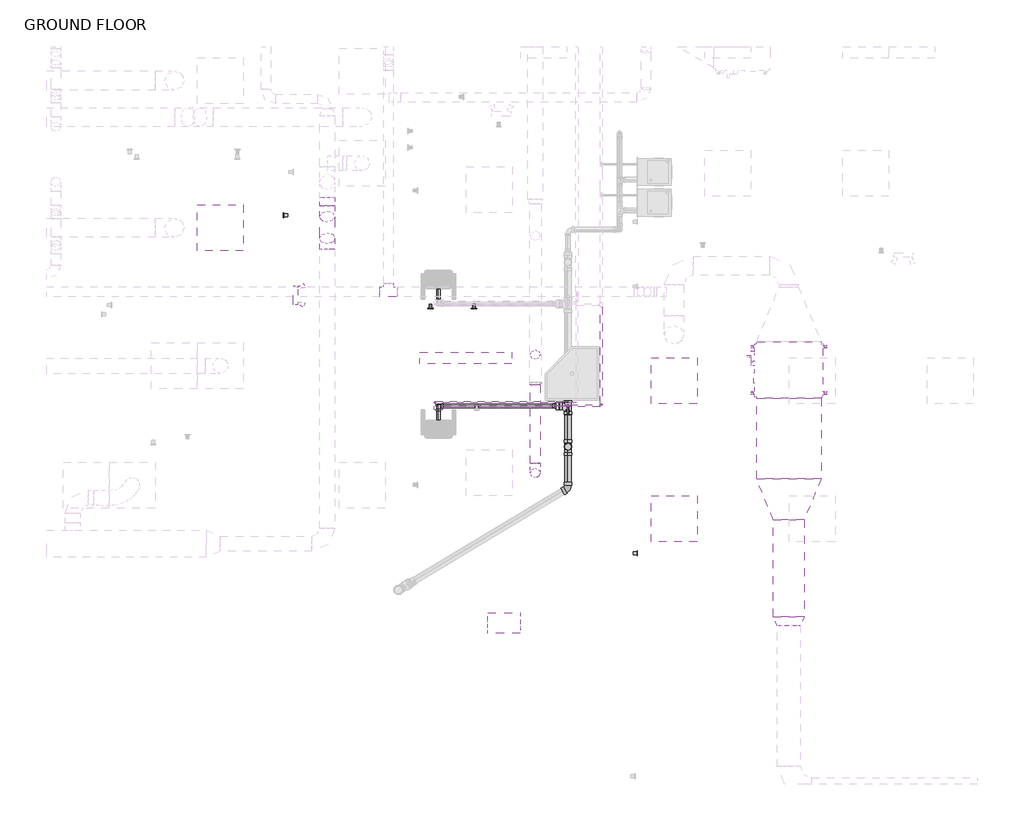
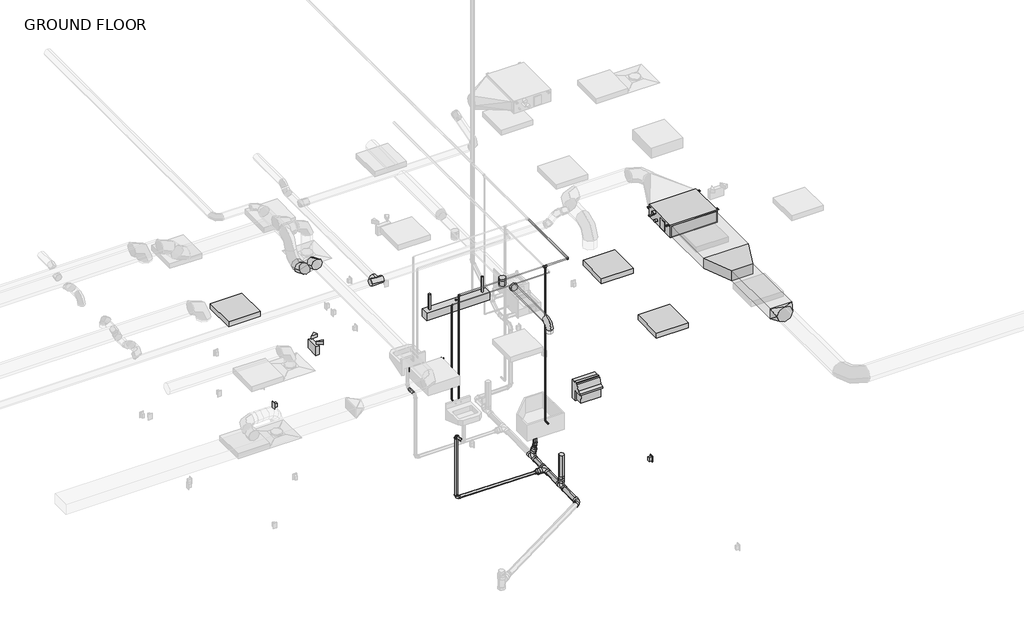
# One storey, part 7 of 22: 21 pipe segments, 19 pipe fittings, 8 duct fittings, 7 duct segments, 6 light fixtures, 4 proxies, 1 switching device.
"""IFC4 building model written with IfcOpenShell, lengths in millimetres."""

from ifc_helpers import new_model, si_unit, point, frame, frame_2d, origin, place, context, project, spatial, polyline, circle_curve, trimmed, segment, composite_curve, outline, extrude, transform, mapped, element, save
from components import mechanical_equipment_7e022f85, duplex_receptacle_countertop_10251bba, rectangular_transition_angle_45_degree_497df859, rectangular_to_round_transition_angle_45_degree_a6b6a24c, round_elbow_1_d_c80420c1, round_elbow_1_d_ab3aa7ba, round_takeoff_standard_0d53327c, round_tee_standard_ef45fe1c, round_transition_angle_45_degree_f2e0231c, emergency_wall_light_120v_37438f40, suspended_fluorescent_strip_non_hosted_strip_light_1x4_120v_4ea4ccb3, troffer_corner_insert_2x2_3lamp_e67c7f8f, wall_pack_light_exterior_120v_ab60a804, bend_pvc_sch_40_dwv_standard_56513ac6, bend_pvc_sch_40_dwv_standard_370f4fae, bend_pvc_sch_40_dwv_standard_7bd6d8ba, bend_pvc_sch_40_dwv_standard_0d44c437, elbow_generic_standard_c06ac706, elbow_generic_standard_738589b0, elbow_generic_standard_a088f956, reducer_pvc_sch_40_dwv_standard_e0255712, reducer_pvc_sch_40_dwv_standard_bed7e4d3, reducer_pvc_sch_40_dwv_standard_5cd4e870, tee_generic_standard_d345b28c, tee_sanitary_pvc_sch_40_dwv_standard_1c89b272, tee_sanitary_pvc_sch_40_dwv_standard_95650df0, tee_sanitary_pvc_sch_40_dwv_standard_33d2d55c, transition_generic_standard_55f5cc9a, transition_generic_standard_1e832544

model = new_model("IFC4")

# Units and contexts
model_context = context("Model", 3, world=origin())
ifc_project = project(units=[si_unit("LENGTHUNIT", "METRE", prefix="MILLI")], contexts=[model_context])

# Site, building, storey
site = spatial("IfcSite", under=ifc_project)
building = spatial("IfcBuilding", under=site)
storey = spatial("IfcBuildingStorey", under=building, Name="GROUND FLOOR", Elevation=30480.0)

# Proxies
placement = place(None, origin())
mechanical_equipment_shape = mechanical_equipment_7e022f85(model_context)
element("IfcBuildingElementProxy", 1, Name="PEFY-P-NMAU-E_Medium_Static_Ducted : PEFY-P18NMAU-E", ObjectType="PEFY-P-NMAU-E_Medium_Static_Ducted : PEFY-P18NMAU-E", at=placement, inside=storey, context=model_context, shape_type="MappedRepresentation", body=[
    mapped(mechanical_equipment_shape, transform((15856.6983533, -4228.239426, 33604.2), x_axis=(-1.0, 0.0, 0.0), y_axis=(0.0, -1.0, 0.0), z_axis=(0.0, 0.0, 1.0))),
])
duplex_receptacle_countertop_shape = duplex_receptacle_countertop_10251bba(model_context)
element("IfcBuildingElementProxy", 2, Name="Duplex Receptacle : GFCI", ObjectType="Duplex Receptacle : GFCI", at=placement, inside=storey, context=model_context, shape_type="MappedRepresentation", body=[
    mapped(duplex_receptacle_countertop_shape, transform((11695.4238413, -3466.1054995, 31699.2), x_axis=(1.0, 0.0, 0.0), y_axis=(0.0, 0.0, 1.0), z_axis=(0.0, -1.0, 0.0))),
])
element("IfcBuildingElementProxy", 3, Name="Duplex Receptacle : Standard", ObjectType="Duplex Receptacle : Standard", at=placement, inside=storey, context=model_context, shape_type="MappedRepresentation", body=[
    mapped(duplex_receptacle_countertop_shape, transform((9173.5295393, -2231.5768366, 30937.2), x_axis=(0.0, -1.0, 0.0), y_axis=(0.0, 0.0, 1.0), z_axis=(-1.0, 0.0, 0.0))),
])
element("IfcBuildingElementProxy", 4, Name="Duplex Receptacle : Standard", ObjectType="Duplex Receptacle : Standard", at=placement, inside=storey, context=model_context, shape_type="MappedRepresentation", body=[
    mapped(duplex_receptacle_countertop_shape, transform((13856.6545393, -6710.7715703, 30937.2), x_axis=(0.0, 1.0, 0.0), y_axis=(0.0, 0.0, 1.0), z_axis=(1.0, 0.0, 0.0))),
])

# Duct fittings
rectangular_transition_angle_45_degree_shape = rectangular_transition_angle_45_degree_497df859(model_context)
element("IfcDuctFitting", 5, ObjectType="Rectangular Transition - Angle : 45 Degree", at=placement, inside=storey, context=model_context, shape_type="MappedRepresentation", body=[
    mapped(rectangular_transition_angle_45_degree_shape, transform((15866.7105962, -5723.664426, 33750.25), x_axis=(0.0, -1.0, 0.0), y_axis=(1.0, 0.0, 0.0), z_axis=(0.0, 0.0, 1.0))),
])
rectangular_to_round_transition_angle_45_degree_shape = rectangular_to_round_transition_angle_45_degree_a6b6a24c(model_context)
element("IfcDuctFitting", 6, ObjectType="Rectangular to Round Transition - Angle : 45 Degree", at=placement, inside=storey, context=model_context, shape_type="MappedRepresentation", body=[
    mapped(rectangular_to_round_transition_angle_45_degree_shape, transform((15866.7105962, -7552.464426, 33750.25), x_axis=(0.0, -1.0, 0.0), y_axis=(1.0, 0.0, 0.0), z_axis=(0.0, 0.0, 1.0))),
])
round_elbow_1_d_shape = round_elbow_1_d_c80420c1(model_context)
element("IfcDuctFitting", 7, ObjectType="Round Elbow : 1 D", at=placement, inside=storey, context=model_context, shape_type="MappedRepresentation", body=[
    mapped(round_elbow_1_d_shape, transform((12507.2795393, -5647.3304995, 33528.0), x_axis=(0.0, 0.0, 1.0), y_axis=(0.0, 1.0, 0.0), z_axis=(-1.0, 0.0, 0.0))),
])
round_elbow_1_d_2_shape = round_elbow_1_d_ab3aa7ba(model_context)
element("IfcDuctFitting", 8, ObjectType="Round Elbow : 1 D", at=placement, inside=storey, context=model_context, shape_type="MappedRepresentation", body=[
    mapped(round_elbow_1_d_2_shape, transform((9751.3795393, -2596.6056414, 33877.25), x_axis=(0.0, 1.0, 0.0), y_axis=(0.0, 0.0, -1.0), z_axis=(-1.0, 0.0, 0.0))),
])
element("IfcDuctFitting", 9, ObjectType="Round Elbow : 1 D", at=placement, inside=storey, context=model_context, shape_type="MappedRepresentation", body=[
    mapped(round_elbow_1_d_2_shape, transform((9751.3795393, -2190.2056414, 33470.85), x_axis=(0.0, 0.7071067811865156, -0.7071067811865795), y_axis=(0.0, 0.7071067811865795, 0.7071067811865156), z_axis=(1.0, 0.0, 0.0))),
])
round_takeoff_standard_shape = round_takeoff_standard_0d53327c(model_context)
element("IfcDuctFitting", 10, ObjectType="Round Takeoff : Standard", at=placement, inside=storey, context=model_context, shape_type="MappedRepresentation", body=[
    mapped(round_takeoff_standard_shape, transform((12507.2795393, -4078.8804995, 33451.8), x_axis=(0.0, 0.0, -1.0), y_axis=(-1.0, 0.0, 0.0), z_axis=(0.0, 1.0, 0.0))),
])
round_tee_standard_shape = round_tee_standard_ef45fe1c(model_context)
element("IfcDuctFitting", 11, ObjectType="Round Tee : Standard", at=placement, inside=storey, context=model_context, shape_type="MappedRepresentation", body=[
    mapped(round_tee_standard_shape, transform((10560.5577502, -3245.6216457, 33602.867541), x_axis=(-1.0, 0.0, 0.0), y_axis=(0.0, -1.0, 0.0), z_axis=(0.0, 0.0, 1.0))),
])
round_transition_angle_45_degree_shape = round_transition_angle_45_degree_f2e0231c(model_context)
element("IfcDuctFitting", 12, ObjectType="Round Transition - Angle : 45 Degree", at=placement, inside=storey, context=model_context, shape_type="MappedRepresentation", body=[
    mapped(round_transition_angle_45_degree_shape, transform((12507.2795393, -4478.9304995, 33528.0), x_axis=(0.0, 1.0, 0.0), y_axis=(-1.0, 0.0, 0.0), z_axis=(0.0, 0.0, 1.0))),
])

# Duct segments
element("IfcDuctSegment", 13, ObjectType="Mitered Elbows / Taps", at=placement, inside=storey, context=model_context, shape_type="SweptSolid", body=[
    extrude(outline(polyline([(15438.8793462, -4656.864426), (16294.5418462, -4656.864426), (16294.5418462, -5723.664426), (15438.8793462, -5723.664426), (15438.8793462, -4656.864426)])), frame((0.0, 0.0, 33647.0625), z_axis=(0.0, 0.0, 1.0), x_axis=(1.0, 0.0, 0.0)), (0.0, 0.0, 1.0), 206.375),
])
element("IfcDuctSegment", 14, ObjectType="Mitered Elbows / Taps", at=placement, inside=storey, context=model_context, shape_type="SweptSolid", body=[
    extrude(outline(polyline([(15663.5105962, -6265.9722363), (16069.9105962, -6265.9722363), (16069.9105962, -7552.464426), (15663.5105962, -7552.464426), (15663.5105962, -6265.9722363)])), frame((0.0, 0.0, 33648.65), z_axis=(0.0, 0.0, 1.0), x_axis=(1.0, 0.0, 0.0)), (0.0, 0.0, 1.0), 203.2),
])
element("IfcDuctSegment", 15, ObjectType="Taps / Short Radius", at=placement, inside=storey, context=model_context, shape_type="SweptSolid", body=[
    extrude(outline(composite_curve([segment(trimmed(circle_curve(frame_2d((33528.0, 12507.2795393)), 63.5), [point((33528.0, 12570.7795393))], [point((33591.5, 12507.2795393))], False, "CARTESIAN"), True, "CONTINUOUS"), segment(trimmed(circle_curve(frame_2d((33528.0, 12507.2795393)), 63.5), [point((33591.5, 12507.2795393))], [point((33528.0, 12443.7795393))], False, "CARTESIAN"), True, "CONTINUOUS"), segment(trimmed(circle_curve(frame_2d((33528.0, 12507.2795393)), 63.5), [point((33528.0, 12443.7795393))], [point((33464.5, 12507.2795393))], False, "CARTESIAN"), True, "CONTINUOUS"), segment(trimmed(circle_curve(frame_2d((33528.0, 12507.2795393)), 63.5), [point((33464.5, 12507.2795393))], [point((33528.0, 12570.7795393))], False, "CARTESIAN"), True, "CONTINUOUS")], self_intersect=False)), frame((0.0, -5520.3304995, 0.0), z_axis=(0.0, 1.0, 0.0), x_axis=(0.0, 0.0, 1.0)), (0.0, 0.0, 1.0), 1041.4),
])
element("IfcDuctSegment", 16, ObjectType="Taps / Short Radius", at=placement, inside=storey, context=model_context, shape_type="SweptSolid", body=[
    extrude(outline(composite_curve([segment(trimmed(circle_curve(frame_2d((12507.2795393, -5647.3304995)), 63.5), [point((12570.7795393, -5647.3304995))], [point((12507.2795393, -5710.8304995))], False, "CARTESIAN"), True, "CONTINUOUS"), segment(trimmed(circle_curve(frame_2d((12507.2795393, -5647.3304995)), 63.5), [point((12507.2795393, -5710.8304995))], [point((12443.7795393, -5647.3304995))], False, "CARTESIAN"), True, "CONTINUOUS"), segment(trimmed(circle_curve(frame_2d((12507.2795393, -5647.3304995)), 63.5), [point((12443.7795393, -5647.3304995))], [point((12507.2795393, -5583.8304995))], False, "CARTESIAN"), True, "CONTINUOUS"), segment(trimmed(circle_curve(frame_2d((12507.2795393, -5647.3304995)), 63.5), [point((12507.2795393, -5583.8304995))], [point((12570.7795393, -5647.3304995))], False, "CARTESIAN"), True, "CONTINUOUS")], self_intersect=False)), frame((0.0, 0.0, 33324.8), z_axis=(0.0, 0.0, 1.0), x_axis=(1.0, 0.0, 0.0)), (0.0, 0.0, 1.0), 76.2),
])
element("IfcDuctSegment", 17, ObjectType="Taps / Short Radius", at=placement, inside=storey, context=model_context, shape_type="SweptSolid", body=[
    extrude(outline(composite_curve([segment(trimmed(circle_curve(frame_2d((0.0, 63.5)), 63.5), [point((-63.5, 63.5))], [point((0.0, 127.0))], False, "CARTESIAN"), True, "CONTINUOUS"), segment(trimmed(circle_curve(frame_2d((0.0, 63.5)), 63.5), [point((0.0, 127.0))], [point((63.5, 63.5))], False, "CARTESIAN"), True, "CONTINUOUS"), segment(trimmed(circle_curve(frame_2d((0.0, 63.5)), 63.5), [point((63.5, 63.5))], [point((0.0, 0.0))], False, "CARTESIAN"), True, "CONTINUOUS"), segment(trimmed(circle_curve(frame_2d((0.0, 63.5)), 63.5), [point((0.0, 0.0))], [point((-63.5, 63.5))], False, "CARTESIAN"), True, "CONTINUOUS")], self_intersect=False)), frame((12507.2795393, -4142.3804995, 33324.8), z_axis=(0.0, -2.3192114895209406e-12, 1.0), x_axis=(1.0, 0.0, 0.0)), (0.0, 0.0, 1.0), 25.4),
])
element("IfcDuctSegment", 18, ObjectType="Taps / Short Radius", at=placement, inside=storey, context=model_context, shape_type="SweptSolid", body=[
    extrude(outline(composite_curve([segment(trimmed(circle_curve(frame_2d((0.0, -101.5999999)), 101.6), [point((101.6, -101.5999999))], [point((0.0, -203.1999999))], False, "CARTESIAN"), True, "CONTINUOUS"), segment(trimmed(circle_curve(frame_2d((0.0, -101.5999999)), 101.6), [point((0.0, -203.1999999))], [point((-101.6, -101.5999999))], False, "CARTESIAN"), True, "CONTINUOUS"), segment(trimmed(circle_curve(frame_2d((0.0, -101.5999999)), 101.6), [point((-101.6, -101.5999999))], [point((0.0, 0.0))], False, "CARTESIAN"), True, "CONTINUOUS"), segment(trimmed(circle_curve(frame_2d((0.0, -101.5999999)), 101.6), [point((0.0, 0.0))], [point((101.6, -101.5999999))], False, "CARTESIAN"), True, "CONTINUOUS")], self_intersect=False)), frame((9751.3795393, -2177.8794945, 33602.207951), z_axis=(0.0, -0.7071067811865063, 0.7071067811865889), x_axis=(1.0, 0.0, 0.0)), (0.0, 0.0, 1.0), 406.4),
])
element("IfcDuctSegment", 19, ObjectType="Taps / Short Radius", at=placement, inside=storey, context=model_context, shape_type="SweptSolid", body=[
    extrude(outline(composite_curve([segment(trimmed(circle_curve(frame_2d((33470.85, 9751.3795393)), 101.6), [point((33470.85, 9649.7795393))], [point((33369.25, 9751.3795393))], False, "CARTESIAN"), True, "CONTINUOUS"), segment(trimmed(circle_curve(frame_2d((33470.85, 9751.3795393)), 101.6), [point((33369.25, 9751.3795393))], [point((33470.85, 9852.9795393))], False, "CARTESIAN"), True, "CONTINUOUS"), segment(trimmed(circle_curve(frame_2d((33470.85, 9751.3795393)), 101.6), [point((33470.85, 9852.9795393))], [point((33572.45, 9751.3795393))], False, "CARTESIAN"), True, "CONTINUOUS"), segment(trimmed(circle_curve(frame_2d((33470.85, 9751.3795393)), 101.6), [point((33572.45, 9751.3795393))], [point((33470.85, 9649.7795393))], False, "CARTESIAN"), True, "CONTINUOUS")], self_intersect=False)), frame((0.0, -2106.0374455, 0.0), z_axis=(0.0, 1.0, 0.0), x_axis=(0.0, 0.0, 1.0)), (0.0, 0.0, 1.0), 109.520905),
])

# Light fixtures
emergency_wall_light_120v_shape = emergency_wall_light_120v_37438f40(model_context)
element("IfcLightFixture", 20, ObjectType="Emergency Wall Light : 120V", at=placement, inside=storey, context=model_context, shape_type="MappedRepresentation", body=[
    mapped(emergency_wall_light_120v_shape, transform((9297.3545393, -3293.5867624, 32715.2), x_axis=(0.0, 1.0, 0.0), y_axis=(0.0, 0.0, 1.0), z_axis=(1.0, 0.0, 0.0))),
])
suspended_fluorescent_strip_non_hosted_strip_light_1x4_120v_shape = suspended_fluorescent_strip_non_hosted_strip_light_1x4_120v_4ea4ccb3(model_context)
element("IfcLightFixture", 21, ObjectType="Suspended Fluorescent Strip - Non-Hosted : Strip Light 1x4 - 120V Normal", at=placement, inside=storey, context=model_context, shape_type="MappedRepresentation", body=[
    mapped(suspended_fluorescent_strip_non_hosted_strip_light_1x4_120v_shape, transform((11587.5546722, -4126.5054995, 33223.2), x_axis=(1.0, 0.0, 0.0), y_axis=(0.0, 1.0, 0.0), z_axis=(0.0, 0.0, 1.0))),
])
troffer_corner_insert_2x2_3lamp_shape = troffer_corner_insert_2x2_3lamp_e67c7f8f(model_context)
element("IfcLightFixture", 22, ObjectType="Troffer Corner Insert : 2x2 3Lamp", at=placement, inside=storey, context=model_context, shape_type="MappedRepresentation", body=[
    mapped(troffer_corner_insert_2x2_3lamp_shape, transform((8335.3295393, -2399.3054995, 30784.8), x_axis=(1.0, 0.0, 0.0), y_axis=(0.0, 1.0, 0.0), z_axis=(0.0, 0.0, 1.0))),
])
element("IfcLightFixture", 23, ObjectType="Troffer Corner Insert : 2x2 3Lamp", at=placement, inside=storey, context=model_context, shape_type="MappedRepresentation", body=[
    mapped(troffer_corner_insert_2x2_3lamp_shape, transform((14345.6045393, -4424.9554995, 30784.8), x_axis=(1.0, 0.0, 0.0), y_axis=(0.0, 1.0, 0.0), z_axis=(0.0, 0.0, 1.0))),
])
element("IfcLightFixture", 24, ObjectType="Troffer Corner Insert : 2x2 3Lamp", at=placement, inside=storey, context=model_context, shape_type="MappedRepresentation", body=[
    mapped(troffer_corner_insert_2x2_3lamp_shape, transform((14345.6045393, -6253.7554995, 30784.8), x_axis=(1.0, 0.0, 0.0), y_axis=(0.0, 1.0, 0.0), z_axis=(0.0, 0.0, 1.0))),
])
wall_pack_light_exterior_120v_shape = wall_pack_light_exterior_120v_ab60a804(model_context)
element("IfcLightFixture", 25, ObjectType="Wall Pack Light - Exterior : 120V", at=placement, inside=storey, context=model_context, shape_type="MappedRepresentation", body=[
    mapped(wall_pack_light_exterior_120v_shape, transform((12093.580541, -7501.5304995, 33528.0), x_axis=(1.0, 0.0, 0.0), y_axis=(0.0, 0.0, 1.0), z_axis=(0.0, -1.0, 0.0))),
])

# Pipe fittings
bend_pvc_sch_40_dwv_standard_shape = bend_pvc_sch_40_dwv_standard_56513ac6(model_context)
element("IfcPipeFitting", 26, ObjectType="Bend - PVC - Sch 40 - DWV : Standard", at=placement, inside=storey, context=model_context, shape_type="MappedRepresentation", body=[
    mapped(bend_pvc_sch_40_dwv_standard_shape, transform((11224.5795393, -4758.3304995, 31137.7541667), x_axis=(0.0, 0.9999457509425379, -0.010416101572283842), y_axis=(0.0, -0.010416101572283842, -0.9999457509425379), z_axis=(-1.0, 0.0, 0.0))),
])
bend_pvc_sch_40_dwv_standard_2_shape = bend_pvc_sch_40_dwv_standard_370f4fae(model_context)
element("IfcPipeFitting", 27, ObjectType="Bend - PVC - Sch 40 - DWV : Standard", at=placement, inside=storey, context=model_context, shape_type="MappedRepresentation", body=[
    mapped(bend_pvc_sch_40_dwv_standard_2_shape, transform((11224.5795393, -4758.3304995, 29870.4743226), x_axis=(0.0, 0.0, -1.0), y_axis=(1.0, 0.0, 0.0), z_axis=(0.0, -1.0, 0.0))),
])
bend_pvc_sch_40_dwv_standard_3_shape = bend_pvc_sch_40_dwv_standard_7bd6d8ba(model_context)
element("IfcPipeFitting", 28, ObjectType="Bend - PVC - Sch 40 - DWV : Standard", at=placement, inside=storey, context=model_context, shape_type="MappedRepresentation", body=[
    mapped(bend_pvc_sch_40_dwv_standard_3_shape, transform((12939.0795393, -5850.5304995, 29839.1791667), x_axis=(0.8571673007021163, 0.5150380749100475, 0.0), y_axis=(-0.5150000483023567, 0.8571040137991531, 0.012151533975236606), z_axis=(0.006258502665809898, -0.010415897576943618, 0.9999261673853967))),
])
bend_pvc_sch_40_dwv_standard_4_shape = bend_pvc_sch_40_dwv_standard_0d44c437(model_context)
element("IfcPipeFitting", 29, ObjectType="Bend - PVC - Sch 40 - DWV : Standard", at=placement, inside=storey, context=model_context, shape_type="MappedRepresentation", body=[
    mapped(bend_pvc_sch_40_dwv_standard_4_shape, transform((12993.0545393, -4329.7054995, 30099.0), x_axis=(0.0, 0.0, -1.0), y_axis=(-1.0, 0.0, 0.0), z_axis=(0.0, 1.0, 0.0))),
])
elbow_generic_standard_shape = elbow_generic_standard_c06ac706(model_context)
element("IfcPipeFitting", 30, ObjectType="Elbow - Generic : Standard", at=placement, inside=storey, context=model_context, shape_type="MappedRepresentation", body=[
    mapped(elbow_generic_standard_shape, transform((13383.5569177, -4755.5406482, 33978.2831664), x_axis=(1.0, 0.0, 0.0), y_axis=(0.0, 1.0, 0.0), z_axis=(0.0, 0.0, 1.0))),
])
elbow_generic_standard_2_shape = elbow_generic_standard_738589b0(model_context)
element("IfcPipeFitting", 31, ObjectType="Elbow - Generic : Standard", at=placement, inside=storey, context=model_context, shape_type="MappedRepresentation", body=[
    mapped(elbow_generic_standard_2_shape, transform((12942.2545393, -4755.5406482, 30835.6), x_axis=(0.0, 0.0, -1.0), y_axis=(0.0, -1.0, 0.0), z_axis=(-1.0, 0.0, 0.0))),
])
elbow_generic_standard_3_shape = elbow_generic_standard_a088f956(model_context)
element("IfcPipeFitting", 32, ObjectType="Elbow - Generic : Standard", at=placement, inside=storey, context=model_context, shape_type="MappedRepresentation", body=[
    mapped(elbow_generic_standard_3_shape, transform((11275.3795393, -4755.5406482, 31851.6), x_axis=(0.0, 1.0, 0.0), y_axis=(0.0, 0.0, 1.0), z_axis=(1.0, 0.0, 0.0))),
])
element("IfcPipeFitting", 33, ObjectType="Elbow - Generic : Standard", at=placement, inside=storey, context=model_context, shape_type="MappedRepresentation", body=[
    mapped(elbow_generic_standard_3_shape, transform((11275.3795393, -4755.5406482, 33978.2831664), x_axis=(0.0, 0.0, 1.0), y_axis=(1.0, 0.0, 0.0), z_axis=(0.0, 1.0, 0.0))),
])
element("IfcPipeFitting", 34, ObjectType="Elbow - Generic : Standard", at=placement, inside=storey, context=model_context, shape_type="MappedRepresentation", body=[
    mapped(elbow_generic_standard_3_shape, transform((11173.7795393, -4707.5304995, 31851.6), x_axis=(0.0, 1.0, 0.0), y_axis=(0.0, 0.0, 1.0), z_axis=(1.0, 0.0, 0.0))),
])
element("IfcPipeFitting", 35, ObjectType="Elbow - Generic : Standard", at=placement, inside=storey, context=model_context, shape_type="MappedRepresentation", body=[
    mapped(elbow_generic_standard_3_shape, transform((11173.7795393, -4707.5304995, 33782.0), x_axis=(0.0, 0.0, 1.0), y_axis=(1.0, 0.0, 0.0), z_axis=(0.0, 1.0, 0.0))),
])
reducer_pvc_sch_40_dwv_standard_shape = reducer_pvc_sch_40_dwv_standard_e0255712(model_context)
element("IfcPipeFitting", 36, ObjectType="Reducer - PVC - Sch 40 - DWV : Standard", at=placement, inside=storey, context=model_context, shape_type="MappedRepresentation", body=[
    mapped(reducer_pvc_sch_40_dwv_standard_shape, transform((12939.0795393, -5298.0804995, 29960.8340542), x_axis=(0.0, 0.0, 1.0), y_axis=(1.0, 0.0, 0.0), z_axis=(0.0, 1.0, 0.0))),
])
reducer_pvc_sch_40_dwv_standard_2_shape = reducer_pvc_sch_40_dwv_standard_bed7e4d3(model_context)
element("IfcPipeFitting", 37, ObjectType="Reducer - PVC - Sch 40 - DWV : Standard", at=placement, inside=storey, context=model_context, shape_type="MappedRepresentation", body=[
    mapped(reducer_pvc_sch_40_dwv_standard_2_shape, transform((12823.1871597, -4758.3304995, 29851.9026209), x_axis=(-0.9999325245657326, 0.0, 0.011616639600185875), y_axis=(-0.00012099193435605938, -0.9999457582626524, -0.010414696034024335), z_axis=(0.01161600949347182, -0.010415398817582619, 0.9998782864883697))),
])
reducer_pvc_sch_40_dwv_standard_3_shape = reducer_pvc_sch_40_dwv_standard_5cd4e870(model_context)
element("IfcPipeFitting", 38, ObjectType="Reducer - PVC - Sch 40 - DWV : Standard", at=placement, inside=storey, context=model_context, shape_type="MappedRepresentation", body=[
    mapped(reducer_pvc_sch_40_dwv_standard_3_shape, transform((12963.7691002, -4329.7054995, 29968.2251453), x_axis=(0.2130243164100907, 0.0, 0.977046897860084), y_axis=(-0.0021680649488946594, 0.9999975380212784, 0.00047270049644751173), z_axis=(-0.9770444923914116, -0.0022189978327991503, 0.21302379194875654))),
])
tee_generic_standard_shape = tee_generic_standard_d345b28c(model_context)
element("IfcPipeFitting", 39, ObjectType="Tee - Generic : Standard", at=placement, inside=storey, context=model_context, shape_type="MappedRepresentation", body=[
    mapped(tee_generic_standard_shape, transform((12942.2545393, -4755.5406482, 33978.2831664), x_axis=(-1.0, 0.0, 0.0), y_axis=(0.0, 0.0, 1.0), z_axis=(0.0, 1.0, 0.0))),
])
tee_sanitary_pvc_sch_40_dwv_standard_shape = tee_sanitary_pvc_sch_40_dwv_standard_1c89b272(model_context)
element("IfcPipeFitting", 40, ObjectType="Tee Sanitary - PVC - Sch 40 - DWV : Standard", at=placement, inside=storey, context=model_context, shape_type="MappedRepresentation", body=[
    mapped(tee_sanitary_pvc_sch_40_dwv_standard_shape, transform((12939.0795393, -5298.0804995, 29844.9338542), x_axis=(0.0, 0.9999457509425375, 0.010416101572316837), y_axis=(0.0, 0.010416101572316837, -0.9999457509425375), z_axis=(-1.0, 0.0, 0.0))),
])
tee_sanitary_pvc_sch_40_dwv_standard_2_shape = tee_sanitary_pvc_sch_40_dwv_standard_95650df0(model_context)
element("IfcPipeFitting", 41, ObjectType="Tee Sanitary - PVC - Sch 40 - DWV : Standard", at=placement, inside=storey, context=model_context, shape_type="MappedRepresentation", body=[
    mapped(tee_sanitary_pvc_sch_40_dwv_standard_2_shape, transform((12939.0795393, -4758.3304995, 29850.55625), x_axis=(0.0, 0.9999457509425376, 0.010416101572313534), y_axis=(0.9999325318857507, 0.00012099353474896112, -0.011615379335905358), z_axis=(-0.011616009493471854, 0.010415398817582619, -0.9998782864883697))),
])
tee_sanitary_pvc_sch_40_dwv_standard_3_shape = tee_sanitary_pvc_sch_40_dwv_standard_33d2d55c(model_context)
element("IfcPipeFitting", 42, ObjectType="Tee Sanitary - PVC - Sch 40 - DWV : Standard", at=placement, inside=storey, context=model_context, shape_type="MappedRepresentation", body=[
    mapped(tee_sanitary_pvc_sch_40_dwv_standard_3_shape, transform((12939.0795393, -4329.7058732, 29855.0210899), x_axis=(0.0, 0.9999457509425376, 0.01041610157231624), y_axis=(-0.2130353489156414, 0.010176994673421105, -0.9769914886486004), z_axis=(-0.9770444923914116, -0.0022189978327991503, 0.21302379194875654))),
])
transition_generic_standard_shape = transition_generic_standard_55f5cc9a(model_context)
element("IfcPipeFitting", 43, ObjectType="Transition - Generic : Standard", at=placement, inside=storey, context=model_context, shape_type="MappedRepresentation", body=[
    mapped(transition_generic_standard_shape, transform((12903.0725627, -4755.5406482, 33978.2831664), x_axis=(1.0, 0.0, 0.0), y_axis=(0.0, 1.0, 0.0), z_axis=(0.0, 0.0, 1.0))),
])
transition_generic_standard_2_shape = transition_generic_standard_1e832544(model_context)
element("IfcPipeFitting", 44, ObjectType="Transition - Generic : Standard", at=placement, inside=storey, context=model_context, shape_type="MappedRepresentation", body=[
    mapped(transition_generic_standard_2_shape, transform((12942.2545393, -4755.5406482, 33951.2956664), x_axis=(0.0, 0.0, -1.0), y_axis=(1.0, 0.0, 0.0), z_axis=(0.0, -1.0, 0.0))),
])

# Pipe segments
element("IfcPipeSegment", 45, ObjectType="Copper Tubing", at=placement, inside=storey, context=model_context, shape_type="SweptSolid", body=[
    extrude(outline(composite_curve([segment(trimmed(circle_curve(frame_2d((33978.2831664, 13383.5569177)), 14.2875), [point((33978.2831664, 13369.2694177))], [point((33963.9956664, 13383.5569177))], False, "CARTESIAN"), True, "CONTINUOUS"), segment(trimmed(circle_curve(frame_2d((33978.2831664, 13383.5569177)), 14.2875), [point((33963.9956664, 13383.5569177))], [point((33978.2831664, 13397.8444177))], False, "CARTESIAN"), True, "CONTINUOUS"), segment(trimmed(circle_curve(frame_2d((33978.2831664, 13383.5569177)), 14.2875), [point((33978.2831664, 13397.8444177))], [point((33992.5706664, 13383.5569177))], False, "CARTESIAN"), True, "CONTINUOUS"), segment(trimmed(circle_curve(frame_2d((33978.2831664, 13383.5569177)), 14.2875), [point((33992.5706664, 13383.5569177))], [point((33978.2831664, 13369.2694177))], False, "CARTESIAN"), True, "CONTINUOUS")], self_intersect=False)), frame((0.0, -4734.9031482, 0.0), z_axis=(0.0, 1.0, 0.0), x_axis=(0.0, 0.0, 1.0)), (0.0, 0.0, 1.0), 1289.4351487),
])
element("IfcPipeSegment", 46, ObjectType="Copper Tubing", at=placement, inside=storey, context=model_context, shape_type="SweptSolid", body=[
    extrude(outline(composite_curve([segment(trimmed(circle_curve(frame_2d((-4755.5406482, 33978.2831664)), 14.2875), [point((-4741.2531482, 33978.2831664))], [point((-4755.5406482, 33963.9956664))], False, "CARTESIAN"), True, "CONTINUOUS"), segment(trimmed(circle_curve(frame_2d((-4755.5406482, 33978.2831664)), 14.2875), [point((-4755.5406482, 33963.9956664))], [point((-4769.8281482, 33978.2831664))], False, "CARTESIAN"), True, "CONTINUOUS"), segment(trimmed(circle_curve(frame_2d((-4755.5406482, 33978.2831664)), 14.2875), [point((-4769.8281482, 33978.2831664))], [point((-4755.5406482, 33992.5706664))], False, "CARTESIAN"), True, "CONTINUOUS"), segment(trimmed(circle_curve(frame_2d((-4755.5406482, 33978.2831664)), 14.2875), [point((-4755.5406482, 33992.5706664))], [point((-4741.2531482, 33978.2831664))], False, "CARTESIAN"), True, "CONTINUOUS")], self_intersect=False)), frame((12910.2163127, 0.0, 0.0), z_axis=(1.0, 0.0, 0.0), x_axis=(0.0, 1.0, 0.0)), (0.0, 0.0, 1.0), 5.0507266),
])
element("IfcPipeSegment", 47, ObjectType="Copper Tubing", at=placement, inside=storey, context=model_context, shape_type="SweptSolid", body=[
    extrude(outline(composite_curve([segment(trimmed(circle_curve(frame_2d((31851.6, 11275.3795393)), 7.9375), [point((31851.6, 11283.3170393))], [point((31859.5375, 11275.3795393))], False, "CARTESIAN"), True, "CONTINUOUS"), segment(trimmed(circle_curve(frame_2d((31851.6, 11275.3795393)), 7.9375), [point((31859.5375, 11275.3795393))], [point((31851.6, 11267.4420393))], False, "CARTESIAN"), True, "CONTINUOUS"), segment(trimmed(circle_curve(frame_2d((31851.6, 11275.3795393)), 7.9375), [point((31851.6, 11267.4420393))], [point((31843.6625, 11275.3795393))], False, "CARTESIAN"), True, "CONTINUOUS"), segment(trimmed(circle_curve(frame_2d((31851.6, 11275.3795393)), 7.9375), [point((31843.6625, 11275.3795393))], [point((31851.6, 11283.3170393))], False, "CARTESIAN"), True, "CONTINUOUS")], self_intersect=False)), frame((0.0, -4809.1304995, 0.0), z_axis=(0.0, 1.0, 0.0), x_axis=(0.0, 0.0, 1.0)), (0.0, 0.0, 1.0), 39.3023513),
])
element("IfcPipeSegment", 48, ObjectType="Copper Tubing", at=placement, inside=storey, context=model_context, shape_type="SweptSolid", body=[
    extrude(outline(composite_curve([segment(trimmed(circle_curve(frame_2d((-4755.5406482, 33978.2831664)), 7.9375), [point((-4763.4781482, 33978.2831664))], [point((-4755.5406482, 33986.2206664))], False, "CARTESIAN"), True, "CONTINUOUS"), segment(trimmed(circle_curve(frame_2d((-4755.5406482, 33978.2831664)), 7.9375), [point((-4755.5406482, 33986.2206664))], [point((-4747.6031482, 33978.2831664))], False, "CARTESIAN"), True, "CONTINUOUS"), segment(trimmed(circle_curve(frame_2d((-4755.5406482, 33978.2831664)), 7.9375), [point((-4747.6031482, 33978.2831664))], [point((-4755.5406482, 33970.3456664))], False, "CARTESIAN"), True, "CONTINUOUS"), segment(trimmed(circle_curve(frame_2d((-4755.5406482, 33978.2831664)), 7.9375), [point((-4755.5406482, 33970.3456664))], [point((-4763.4781482, 33978.2831664))], False, "CARTESIAN"), True, "CONTINUOUS")], self_intersect=False)), frame((11289.6670393, 0.0, 0.0), z_axis=(1.0, 0.0, 0.0), x_axis=(0.0, 1.0, 0.0)), (0.0, 0.0, 1.0), 1613.4055234),
])
element("IfcPipeSegment", 49, ObjectType="Copper Tubing", at=placement, inside=storey, context=model_context, shape_type="SweptSolid", body=[
    extrude(outline(composite_curve([segment(trimmed(circle_curve(frame_2d((11275.3795393, -4755.5406482)), 7.9375), [point((11267.4420393, -4755.5406482))], [point((11275.3795393, -4747.6031482))], False, "CARTESIAN"), True, "CONTINUOUS"), segment(trimmed(circle_curve(frame_2d((11275.3795393, -4755.5406482)), 7.9375), [point((11275.3795393, -4747.6031482))], [point((11283.3170393, -4755.5406482))], False, "CARTESIAN"), True, "CONTINUOUS"), segment(trimmed(circle_curve(frame_2d((11275.3795393, -4755.5406482)), 7.9375), [point((11283.3170393, -4755.5406482))], [point((11275.3795393, -4763.4781482))], False, "CARTESIAN"), True, "CONTINUOUS"), segment(trimmed(circle_curve(frame_2d((11275.3795393, -4755.5406482)), 7.9375), [point((11275.3795393, -4763.4781482))], [point((11267.4420393, -4755.5406482))], False, "CARTESIAN"), True, "CONTINUOUS")], self_intersect=False)), frame((0.0, 0.0, 31865.8875), z_axis=(0.0, 0.0, 1.0), x_axis=(1.0, 0.0, 0.0)), (0.0, 0.0, 1.0), 2098.1081664),
])
element("IfcPipeSegment", 50, ObjectType="Copper Tubing", at=placement, inside=storey, context=model_context, shape_type="SweptSolid", body=[
    extrude(outline(composite_curve([segment(trimmed(circle_curve(frame_2d((30835.6, 12942.2545393)), 11.1125), [point((30835.6, 12931.1420393))], [point((30824.4875, 12942.2545393))], False, "CARTESIAN"), True, "CONTINUOUS"), segment(trimmed(circle_curve(frame_2d((30835.6, 12942.2545393)), 11.1125), [point((30824.4875, 12942.2545393))], [point((30835.6, 12953.3670393))], False, "CARTESIAN"), True, "CONTINUOUS"), segment(trimmed(circle_curve(frame_2d((30835.6, 12942.2545393)), 11.1125), [point((30835.6, 12953.3670393))], [point((30846.7125, 12942.2545393))], False, "CARTESIAN"), True, "CONTINUOUS"), segment(trimmed(circle_curve(frame_2d((30835.6, 12942.2545393)), 11.1125), [point((30846.7125, 12942.2545393))], [point((30835.6, 12931.1420393))], False, "CARTESIAN"), True, "CONTINUOUS")], self_intersect=False)), frame((0.0, -4859.9304995, 0.0), z_axis=(0.0, 1.0, 0.0), x_axis=(0.0, 0.0, 1.0)), (0.0, 0.0, 1.0), 86.9273513),
])
element("IfcPipeSegment", 51, ObjectType="Copper Tubing", at=placement, inside=storey, context=model_context, shape_type="SweptSolid", body=[
    extrude(outline(composite_curve([segment(trimmed(circle_curve(frame_2d((12942.2545393, -4755.5406482)), 11.1125), [point((12953.3670393, -4755.5406482))], [point((12942.2545393, -4766.6531482))], False, "CARTESIAN"), True, "CONTINUOUS"), segment(trimmed(circle_curve(frame_2d((12942.2545393, -4755.5406482)), 11.1125), [point((12942.2545393, -4766.6531482))], [point((12931.1420393, -4755.5406482))], False, "CARTESIAN"), True, "CONTINUOUS"), segment(trimmed(circle_curve(frame_2d((12942.2545393, -4755.5406482)), 11.1125), [point((12931.1420393, -4755.5406482))], [point((12942.2545393, -4744.4281482))], False, "CARTESIAN"), True, "CONTINUOUS"), segment(trimmed(circle_curve(frame_2d((12942.2545393, -4755.5406482)), 11.1125), [point((12942.2545393, -4744.4281482))], [point((12953.3670393, -4755.5406482))], False, "CARTESIAN"), True, "CONTINUOUS")], self_intersect=False)), frame((0.0, 0.0, 30853.0625), z_axis=(0.0, 0.0, 1.0), x_axis=(1.0, 0.0, 0.0)), (0.0, 0.0, 1.0), 3091.0894164),
])
element("IfcPipeSegment", 52, ObjectType="Copper Tubing", at=placement, inside=storey, context=model_context, shape_type="SweptSolid", body=[
    extrude(outline(composite_curve([segment(trimmed(circle_curve(frame_2d((-4755.5406482, 33978.2831664)), 14.2875), [point((-4741.2531482, 33978.2831664))], [point((-4755.5406482, 33963.9956664))], False, "CARTESIAN"), True, "CONTINUOUS"), segment(trimmed(circle_curve(frame_2d((-4755.5406482, 33978.2831664)), 14.2875), [point((-4755.5406482, 33963.9956664))], [point((-4769.8281482, 33978.2831664))], False, "CARTESIAN"), True, "CONTINUOUS"), segment(trimmed(circle_curve(frame_2d((-4755.5406482, 33978.2831664)), 14.2875), [point((-4769.8281482, 33978.2831664))], [point((-4755.5406482, 33992.5706664))], False, "CARTESIAN"), True, "CONTINUOUS"), segment(trimmed(circle_curve(frame_2d((-4755.5406482, 33978.2831664)), 14.2875), [point((-4755.5406482, 33992.5706664))], [point((-4741.2531482, 33978.2831664))], False, "CARTESIAN"), True, "CONTINUOUS")], self_intersect=False)), frame((12969.2420393, 0.0, 0.0), z_axis=(1.0, 0.0, 0.0), x_axis=(0.0, 1.0, 0.0)), (0.0, 0.0, 1.0), 393.6773784),
])
element("IfcPipeSegment", 53, ObjectType="Copper Tubing", at=placement, inside=storey, context=model_context, shape_type="SweptSolid", body=[
    extrude(outline(composite_curve([segment(trimmed(circle_curve(frame_2d((31851.6, 11173.7795393)), 7.9375), [point((31851.6, 11181.7170393))], [point((31859.5375, 11173.7795393))], False, "CARTESIAN"), True, "CONTINUOUS"), segment(trimmed(circle_curve(frame_2d((31851.6, 11173.7795393)), 7.9375), [point((31859.5375, 11173.7795393))], [point((31851.6, 11165.8420393))], False, "CARTESIAN"), True, "CONTINUOUS"), segment(trimmed(circle_curve(frame_2d((31851.6, 11173.7795393)), 7.9375), [point((31851.6, 11165.8420393))], [point((31843.6625, 11173.7795393))], False, "CARTESIAN"), True, "CONTINUOUS"), segment(trimmed(circle_curve(frame_2d((31851.6, 11173.7795393)), 7.9375), [point((31843.6625, 11173.7795393))], [point((31851.6, 11181.7170393))], False, "CARTESIAN"), True, "CONTINUOUS")], self_intersect=False)), frame((0.0, -4809.1304995, 0.0), z_axis=(0.0, 1.0, 0.0), x_axis=(0.0, 0.0, 1.0)), (0.0, 0.0, 1.0), 87.3125),
])
element("IfcPipeSegment", 54, ObjectType="Copper Tubing", at=placement, inside=storey, context=model_context, shape_type="SweptSolid", body=[
    extrude(outline(composite_curve([segment(trimmed(circle_curve(frame_2d((-4707.5304995, 33782.0)), 7.9375), [point((-4715.4679995, 33782.0))], [point((-4707.5304995, 33789.9375))], False, "CARTESIAN"), True, "CONTINUOUS"), segment(trimmed(circle_curve(frame_2d((-4707.5304995, 33782.0)), 7.9375), [point((-4707.5304995, 33789.9375))], [point((-4699.5929995, 33782.0))], False, "CARTESIAN"), True, "CONTINUOUS"), segment(trimmed(circle_curve(frame_2d((-4707.5304995, 33782.0)), 7.9375), [point((-4699.5929995, 33782.0))], [point((-4707.5304995, 33774.0625))], False, "CARTESIAN"), True, "CONTINUOUS"), segment(trimmed(circle_curve(frame_2d((-4707.5304995, 33782.0)), 7.9375), [point((-4707.5304995, 33774.0625))], [point((-4715.4679995, 33782.0))], False, "CARTESIAN"), True, "CONTINUOUS")], self_intersect=False)), frame((11188.0670393, 0.0, 0.0), z_axis=(1.0, 0.0, 0.0), x_axis=(0.0, 1.0, 0.0)), (0.0, 0.0, 1.0), 1858.5966648),
])
element("IfcPipeSegment", 55, ObjectType="Copper Tubing", at=placement, inside=storey, context=model_context, shape_type="SweptSolid", body=[
    extrude(outline(composite_curve([segment(trimmed(circle_curve(frame_2d((11173.7795393, -4707.5304995)), 7.9375), [point((11165.8420393, -4707.5304995))], [point((11173.7795393, -4699.5929995))], False, "CARTESIAN"), True, "CONTINUOUS"), segment(trimmed(circle_curve(frame_2d((11173.7795393, -4707.5304995)), 7.9375), [point((11173.7795393, -4699.5929995))], [point((11181.7170393, -4707.5304995))], False, "CARTESIAN"), True, "CONTINUOUS"), segment(trimmed(circle_curve(frame_2d((11173.7795393, -4707.5304995)), 7.9375), [point((11181.7170393, -4707.5304995))], [point((11173.7795393, -4715.4679995))], False, "CARTESIAN"), True, "CONTINUOUS"), segment(trimmed(circle_curve(frame_2d((11173.7795393, -4707.5304995)), 7.9375), [point((11173.7795393, -4715.4679995))], [point((11165.8420393, -4707.5304995))], False, "CARTESIAN"), True, "CONTINUOUS")], self_intersect=False)), frame((0.0, 0.0, 31865.8875), z_axis=(0.0, 0.0, 1.0), x_axis=(1.0, 0.0, 0.0)), (0.0, 0.0, 1.0), 1901.825),
])
element("IfcPipeSegment", 56, ObjectType="PVC - DWV", at=placement, inside=storey, context=model_context, shape_type="SweptSolid", body=[
    extrude(outline(composite_curve([segment(trimmed(circle_curve(frame_2d((12942.2545393, -5298.0804995)), 44.45), [point((12986.7045393, -5298.0804995))], [point((12942.2545393, -5342.5304995))], False, "CARTESIAN"), True, "CONTINUOUS"), segment(trimmed(circle_curve(frame_2d((12942.2545393, -5298.0804995)), 44.45), [point((12942.2545393, -5342.5304995))], [point((12897.8045393, -5298.0804995))], False, "CARTESIAN"), True, "CONTINUOUS"), segment(trimmed(circle_curve(frame_2d((12942.2545393, -5298.0804995)), 44.45), [point((12897.8045393, -5298.0804995))], [point((12942.2545393, -5253.6304995))], False, "CARTESIAN"), True, "CONTINUOUS"), segment(trimmed(circle_curve(frame_2d((12942.2545393, -5298.0804995)), 44.45), [point((12942.2545393, -5253.6304995))], [point((12986.7045393, -5298.0804995))], False, "CARTESIAN"), True, "CONTINUOUS")], self_intersect=False)), frame((0.0, 0.0, 30043.6261479), z_axis=(0.0, 0.0, 1.0), x_axis=(1.0, 0.0, 0.0)), (0.0, 0.0, 1.0), 436.3738521),
])
element("IfcPipeSegment", 57, ObjectType="PVC - DWV", at=placement, inside=storey, context=model_context, shape_type="SweptSolid", body=[
    extrude(outline(composite_curve([segment(trimmed(circle_curve(frame_2d((0.0, -44.4500001)), 44.45), [point((-44.45, -44.4500001))], [point((0.0, 0.0))], False, "CARTESIAN"), True, "CONTINUOUS"), segment(trimmed(circle_curve(frame_2d((0.0, -44.4500001)), 44.45), [point((0.0, 0.0))], [point((44.45, -44.4500001))], False, "CARTESIAN"), True, "CONTINUOUS"), segment(trimmed(circle_curve(frame_2d((0.0, -44.4500001)), 44.45), [point((44.45, -44.4500001))], [point((0.0, -88.9))], False, "CARTESIAN"), True, "CONTINUOUS"), segment(trimmed(circle_curve(frame_2d((0.0, -44.4500001)), 44.45), [point((0.0, -88.9))], [point((-44.45, -44.4500001))], False, "CARTESIAN"), True, "CONTINUOUS")], self_intersect=False)), frame((12939.0795393, -5769.0966966, 29795.5750239), z_axis=(0.0, 0.9999457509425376, 0.010416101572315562), x_axis=(1.0, 0.0, 0.0)), (0.0, 0.0, 1.0), 355.6045715),
])
element("IfcPipeSegment", 58, ObjectType="PVC - DWV", at=placement, inside=storey, context=model_context, shape_type="SweptSolid", body=[
    extrude(outline(composite_curve([segment(trimmed(circle_curve(frame_2d((0.0, -44.45)), 44.45), [point((-44.45, -44.45))], [point((0.0, 0.0))], False, "CARTESIAN"), True, "CONTINUOUS"), segment(trimmed(circle_curve(frame_2d((0.0, -44.45)), 44.45), [point((0.0, 0.0))], [point((44.45, -44.45))], False, "CARTESIAN"), True, "CONTINUOUS"), segment(trimmed(circle_curve(frame_2d((0.0, -44.45)), 44.45), [point((44.45, -44.45))], [point((0.0, -88.8999999))], False, "CARTESIAN"), True, "CONTINUOUS"), segment(trimmed(circle_curve(frame_2d((0.0, -44.45)), 44.45), [point((0.0, -88.8999999))], [point((-44.45, -44.45))], False, "CARTESIAN"), True, "CONTINUOUS")], self_intersect=False)), frame((12939.0795393, -5208.4480935, 29801.4151136), z_axis=(0.0, 0.9999457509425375, 0.010416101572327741), x_axis=(1.0, 0.0, 0.0)), (0.0, 0.0, 1.0), 334.7048346),
])
element("IfcPipeSegment", 59, ObjectType="PVC - DWV", at=placement, inside=storey, context=model_context, shape_type="SweptSolid", body=[
    extrude(outline(composite_curve([segment(trimmed(circle_curve(frame_2d((0.0, -24.2093749)), 24.209375), [point((24.209375, -24.2093749))], [point((0.0, -48.41875))], False, "CARTESIAN"), True, "CONTINUOUS"), segment(trimmed(circle_curve(frame_2d((0.0, -24.2093749)), 24.209375), [point((0.0, -48.41875))], [point((-24.209375, -24.2093749))], False, "CARTESIAN"), True, "CONTINUOUS"), segment(trimmed(circle_curve(frame_2d((0.0, -24.2093749)), 24.209375), [point((-24.209375, -24.2093749))], [point((0.0, 0.0))], False, "CARTESIAN"), True, "CONTINUOUS"), segment(trimmed(circle_curve(frame_2d((0.0, -24.2093749)), 24.209375), [point((0.0, 0.0))], [point((24.209375, -24.2093749))], False, "CARTESIAN"), True, "CONTINUOUS")], self_intersect=False)), frame((11224.5795393, -4819.9747742, 31162.6069829), z_axis=(0.0, -0.9999457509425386, 0.010416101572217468), x_axis=(1.0, 0.0, 0.0)), (0.0, 0.0, 1.0), 130.21418),
])
element("IfcPipeSegment", 60, ObjectType="PVC - DWV", at=placement, inside=storey, context=model_context, shape_type="SweptSolid", body=[
    extrude(outline(composite_curve([segment(trimmed(circle_curve(frame_2d((0.0, 24.209375)), 24.209375), [point((0.0, 48.41875))], [point((24.209375, 24.209375))], False, "CARTESIAN"), True, "CONTINUOUS"), segment(trimmed(circle_curve(frame_2d((0.0, 24.209375)), 24.209375), [point((24.209375, 24.209375))], [point((0.0, 0.0))], False, "CARTESIAN"), True, "CONTINUOUS"), segment(trimmed(circle_curve(frame_2d((0.0, 24.209375)), 24.209375), [point((0.0, 0.0))], [point((-24.209375, 24.209375))], False, "CARTESIAN"), True, "CONTINUOUS"), segment(trimmed(circle_curve(frame_2d((0.0, 24.209375)), 24.209375), [point((-24.209375, 24.209375))], [point((0.0, 48.41875))], False, "CARTESIAN"), True, "CONTINUOUS")], self_intersect=False)), frame((12739.8553829, -4782.5398745, 29852.8707214), z_axis=(-0.9999325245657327, 0.0, 0.011616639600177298), x_axis=(0.011616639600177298, 0.0, 0.9999325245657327)), (0.0, 0.0, 1.0), 1453.4782944),
])
element("IfcPipeSegment", 61, ObjectType="PVC - DWV", at=placement, inside=storey, context=model_context, shape_type="SweptSolid", body=[
    extrude(outline(composite_curve([segment(trimmed(circle_curve(frame_2d((11224.5795393, -4758.3304995)), 24.209375), [point((11248.7889143, -4758.3304995))], [point((11224.5795393, -4782.5398745))], False, "CARTESIAN"), True, "CONTINUOUS"), segment(trimmed(circle_curve(frame_2d((11224.5795393, -4758.3304995)), 24.209375), [point((11224.5795393, -4782.5398745))], [point((11200.3701643, -4758.3304995))], False, "CARTESIAN"), True, "CONTINUOUS"), segment(trimmed(circle_curve(frame_2d((11224.5795393, -4758.3304995)), 24.209375), [point((11200.3701643, -4758.3304995))], [point((11224.5795393, -4734.1211245))], False, "CARTESIAN"), True, "CONTINUOUS"), segment(trimmed(circle_curve(frame_2d((11224.5795393, -4758.3304995)), 24.209375), [point((11224.5795393, -4734.1211245))], [point((11248.7889143, -4758.3304995))], False, "CARTESIAN"), True, "CONTINUOUS")], self_intersect=False)), frame((0.0, 0.0, 29932.3741226), z_axis=(0.0, 0.0, 1.0), x_axis=(1.0, 0.0, 0.0)), (0.0, 0.0, 1.0), 1143.4802441),
])
element("IfcPipeSegment", 62, ObjectType="PVC - DWV", at=placement, inside=storey, context=model_context, shape_type="SweptSolid", body=[
    extrude(outline(composite_curve([segment(trimmed(circle_curve(frame_2d((0.0, -44.45)), 44.45), [point((-44.45, -44.45))], [point((0.0, 0.0))], False, "CARTESIAN"), True, "CONTINUOUS"), segment(trimmed(circle_curve(frame_2d((0.0, -44.45)), 44.45), [point((0.0, 0.0))], [point((44.45, -44.45))], False, "CARTESIAN"), True, "CONTINUOUS"), segment(trimmed(circle_curve(frame_2d((0.0, -44.45)), 44.45), [point((44.45, -44.45))], [point((0.0, -88.9))], False, "CARTESIAN"), True, "CONTINUOUS"), segment(trimmed(circle_curve(frame_2d((0.0, -44.45)), 44.45), [point((0.0, -88.9))], [point((-44.45, -44.45))], False, "CARTESIAN"), True, "CONTINUOUS")], self_intersect=False)), frame((12939.0795393, -4669.4962846, 29807.0291949), z_axis=(0.0, 0.9999457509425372, 0.01041610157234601), x_axis=(1.0, 0.0, 0.0)), (0.0, 0.0, 1.0), 224.3716666),
])
element("IfcPipeSegment", 63, ObjectType="PVC - DWV", at=placement, inside=storey, context=model_context, shape_type="SweptSolid", body=[
    extrude(outline(composite_curve([segment(trimmed(circle_curve(frame_2d((0.0, -24.209375)), 24.209375), [point((-24.209375, -24.209375))], [point((0.0, 0.0))], False, "CARTESIAN"), True, "CONTINUOUS"), segment(trimmed(circle_curve(frame_2d((0.0, -24.209375)), 24.209375), [point((0.0, 0.0))], [point((24.209375, -24.209375))], False, "CARTESIAN"), True, "CONTINUOUS"), segment(trimmed(circle_curve(frame_2d((0.0, -24.209375)), 24.209375), [point((24.209375, -24.209375))], [point((0.0, -48.4187501))], False, "CARTESIAN"), True, "CONTINUOUS"), segment(trimmed(circle_curve(frame_2d((0.0, -24.209375)), 24.209375), [point((0.0, -48.4187501))], [point((-24.209375, -24.209375))], False, "CARTESIAN"), True, "CONTINUOUS")], self_intersect=False)), frame((11224.5795393, -3343.6318902, 31114.0585679), z_axis=(0.0, 0.9999457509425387, 0.010416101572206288), x_axis=(1.0, 0.0, 0.0)), (0.0, 0.0, 1.0), 142.914869),
])
element("IfcPipeSegment", 64, ObjectType="PVC - DWV", at=placement, inside=storey, context=model_context, shape_type="SweptSolid", body=[
    extrude(outline(composite_curve([segment(trimmed(circle_curve(frame_2d((12993.0545393, -4329.7054995)), 30.1625), [point((13023.2170393, -4329.7054995))], [point((12993.0545393, -4359.8679995))], False, "CARTESIAN"), True, "CONTINUOUS"), segment(trimmed(circle_curve(frame_2d((12993.0545393, -4329.7054995)), 30.1625), [point((12993.0545393, -4359.8679995))], [point((12962.8920393, -4329.7054995))], False, "CARTESIAN"), True, "CONTINUOUS"), segment(trimmed(circle_curve(frame_2d((12993.0545393, -4329.7054995)), 30.1625), [point((12962.8920393, -4329.7054995))], [point((12993.0545393, -4299.5429995))], False, "CARTESIAN"), True, "CONTINUOUS"), segment(trimmed(circle_curve(frame_2d((12993.0545393, -4329.7054995)), 30.1625), [point((12993.0545393, -4299.5429995))], [point((13023.2170393, -4329.7054995))], False, "CARTESIAN"), True, "CONTINUOUS")], self_intersect=False)), frame((0.0, 0.0, 30135.5252), z_axis=(0.0, 0.0, 1.0), x_axis=(1.0, 0.0, 0.0)), (0.0, 0.0, 1.0), 344.4748),
])
element("IfcPipeSegment", 65, ObjectType="PVC - DWV", at=placement, inside=storey, context=model_context, shape_type="SweptSolid", body=[
    extrude(outline(composite_curve([segment(trimmed(circle_curve(frame_2d((0.0, 30.1625)), 30.1625), [point((0.0, 0.0))], [point((-30.1625001, 30.1625))], False, "CARTESIAN"), True, "CONTINUOUS"), segment(trimmed(circle_curve(frame_2d((0.0, 30.1625)), 30.1625), [point((-30.1625001, 30.1625))], [point((0.0, 60.325))], False, "CARTESIAN"), True, "CONTINUOUS"), segment(trimmed(circle_curve(frame_2d((0.0, 30.1625)), 30.1625), [point((0.0, 60.325))], [point((30.1624999, 30.1625))], False, "CARTESIAN"), True, "CONTINUOUS"), segment(trimmed(circle_curve(frame_2d((0.0, 30.1625)), 30.1625), [point((30.1624999, 30.1625))], [point((0.0, 0.0))], False, "CARTESIAN"), True, "CONTINUOUS")], self_intersect=False)), frame((12981.4155986, -4359.8679995, 30045.6174045), z_axis=(0.2130243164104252, 0.0, 0.9770468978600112), x_axis=(0.9770468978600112, 0.0, -0.2130243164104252)), (0.0, 0.0, 1.0), 18.1114767),
])

# Switching device
element("IfcSwitchingDevice", 66, ObjectType="Lighting Switches : Single Pole", at=placement, inside=storey, context=model_context, shape_type="MappedRepresentation", body=[
    mapped(duplex_receptacle_countertop_shape, transform((11118.8211195, -3466.1054995, 31699.2), x_axis=(1.0, 0.0, 0.0), y_axis=(0.0, 0.0, 1.0), z_axis=(0.0, -1.0, 0.0))),
])

save(model, "model.ifc")
